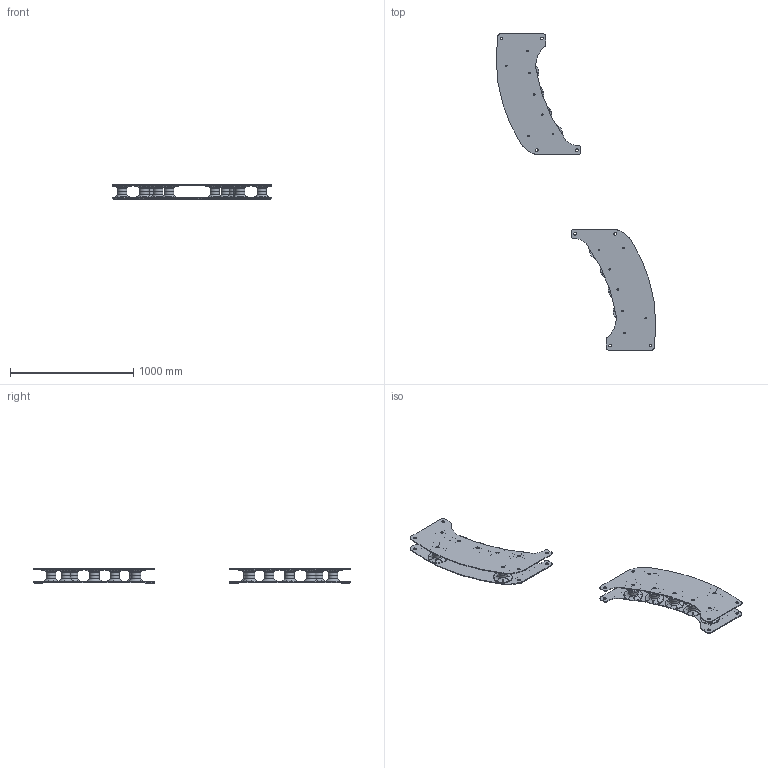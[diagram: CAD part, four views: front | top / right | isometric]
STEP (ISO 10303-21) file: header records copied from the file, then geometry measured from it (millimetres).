
FILE_DESCRIPTION(/* description */ (''),/* implementation_level */ '2;1');
FILE_NAME(/* name */ 'K:\NEMANJA\0700-6\CABLE REEL ACCESSORIES\01006602 CGSB\STP NEMA\73586.stp',/* time_stamp */ '2017-12-01T10:01:17+01:00',/* author */ ('zeldjo01'),/* organization */ ('Hillmar Industries Ltd.'),/* preprocessor_version */ 'ST-DEVELOPER v16.1',/* originating_system */ 'Autodesk Inventor 2016',/* authorisation */ '');
FILE_SCHEMA (('AUTOMOTIVE_DESIGN { 1 0 10303 214 3 1 1 }'));
Products named in the file (1): 73586_Shrinkwrap_1
Bounding box: 1293.34 x 2564.4 x 117 mm (x, y, z)
Volume: 14928890.2 mm3; surface area: 4407485.9 mm2
Topology: 18 solids, 18 shells, 3692 faces, 10118 edges, 6072 vertices
Faces by surface type: plane 2150, cylinder 1150, torus 280, cone 112
Full cylindrical faces by diameter (mm): 13 x28, 19.25 x42, 22 x16, 27.686 x28, 76.2 x28, 80.518 x28, 152.4 x28
Entity records: 124371 total; most frequent: CARTESIAN_POINT 29233, ORIENTED_EDGE 20260, DIRECTION 18296, EDGE_CURVE 9682, AXIS2_PLACEMENT_3D 6713, VERTEX_POINT 6002, LINE 4870, VECTOR 4870
